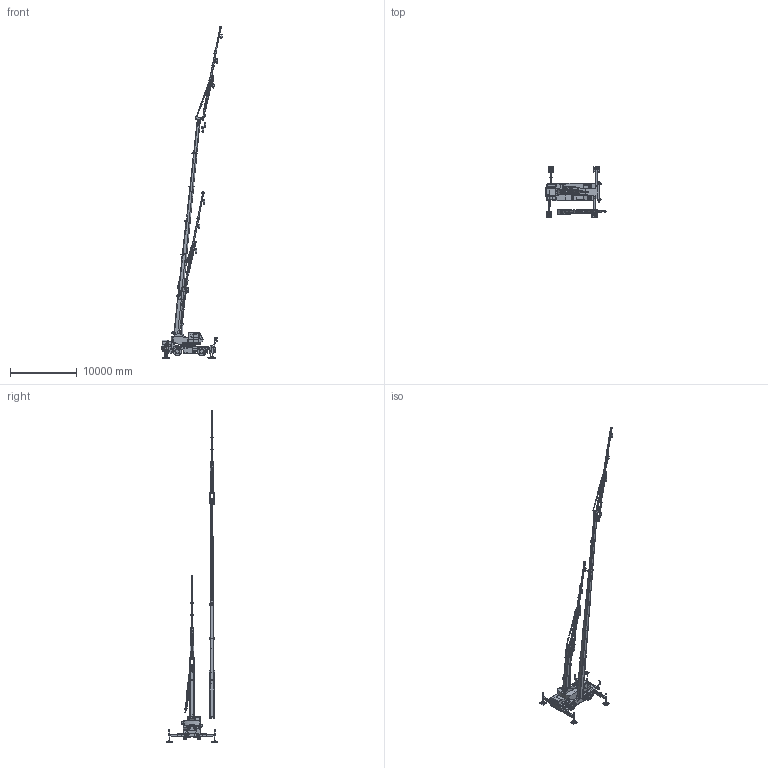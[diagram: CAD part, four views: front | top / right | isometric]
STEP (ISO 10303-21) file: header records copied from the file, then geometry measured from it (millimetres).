
FILE_DESCRIPTION(('CATIA V5 STEP Exchange','CAx-IF Rec.Pracs.--- Model Styling and Organization---1.4--- 2014-01-23'),'2;1');
FILE_NAME('\\Iba001\cad\CR\HP用CADデータ\06A\STP\MR-350Rf2 3D.stp','2022-01-14T06:41:44+00:00',('none'),('none'),'CATIA Version 5-6 Release 2017 SP5 HF78','CATIA V5 STEP AP214','none');
FILE_SCHEMA(('AUTOMOTIVE_DESIGN { 1 0 10303 214 1 1 1 1 }'));
Products named in the file (46): MR-350Rf2 3D; MR-350Rf2 UPPER; MR-350Rf2 UPPER STRUCTURE; MR-350Rf2 TABLE; MR-350Rf2 CAB; MR-350Rf2 MACHINE ROOM; MR-350Rf2 DERRICK CYLINDER-1; MR-350Rf2 DERRICK CYLINDER-2; MR-350Rf2 BOOM JIB Min; MR-350Rf2 BOOM min; MR-350Rf2 BOOM1; MR-350Rf2 BOOM2; MR-350Rf2 BOOM3; MR-350Rf2 BOOM4; MR-350Rf2 BOOM5; MR-350Rf2 BOOM6; MR-350Rf2 JIB Stowed; MR-350Rf2 JIB min; MR-350Rf2 JIB1; MR-350Rf2 JIB2; MR-350Rf2 JIB3; MR-350Rf2 JIB SLIDE BRACKET ASSY; MR-350Rf2 JIB SLIDE BRACKET; MR-350Rf2 TENSION ROD Stowed LR; MR-350Rf2 JIB; MR-350Rf2 JIB 7deg 6.5M; MR-350Rf2 TENSION ROD ASSY LR; MR-350Rf2 JIB 5deg 10.25M; MR-350Rf2 JIB mid; MR-350Rf2 JIB 5deg 14M; MR-350Rf2 JIB max; MR-350Rf2 HOOK 22t; MR-350Rf2 HOOK 4.5t; MR-350Rf2 BOOM JIB Max; MR-350Rf2 BOOM max; MR-350Rf2 CARRIER; MR-350Rf CHASSIS; MR-350Rf2 OUTRIGGER; MR-350Rf2 BEAM F-L; MR-350Rf2 BEAM OUTER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
Assembly tree (84 placements, depth 7):
  MR-350Rf2 3D
    MR-350Rf2 UPPER
      MR-350Rf2 UPPER STRUCTURE
        MR-350Rf2 TABLE
        MR-350Rf2 CAB
        MR-350Rf2 MACHINE ROOM
        MR-350Rf2 DERRICK CYLINDER-1
        MR-350Rf2 DERRICK CYLINDER-2
      MR-350Rf2 BOOM JIB Min
        MR-350Rf2 BOOM min
          MR-350Rf2 BOOM1
          MR-350Rf2 BOOM2
          MR-350Rf2 BOOM3
          MR-350Rf2 BOOM4
          MR-350Rf2 BOOM5
          MR-350Rf2 BOOM6
        MR-350Rf2 JIB Stowed
          MR-350Rf2 JIB min
            MR-350Rf2 JIB1
            MR-350Rf2 JIB2
            MR-350Rf2 JIB3
          MR-350Rf2 JIB SLIDE BRACKET ASSY
            MR-350Rf2 JIB SLIDE BRACKET
          MR-350Rf2 TENSION ROD Stowed LR
        MR-350Rf2 JIB
          MR-350Rf2 JIB 7deg 6.5M
            MR-350Rf2 JIB min
              MR-350Rf2 JIB1
              MR-350Rf2 JIB2
              MR-350Rf2 JIB3
            MR-350Rf2 TENSION ROD ASSY LR
            MR-350Rf2 JIB SLIDE BRACKET ASSY
              MR-350Rf2 JIB SLIDE BRACKET
          MR-350Rf2 JIB 5deg 10.25M
            MR-350Rf2 JIB mid
              MR-350Rf2 JIB1
              MR-350Rf2 JIB2
              MR-350Rf2 JIB3
            MR-350Rf2 JIB SLIDE BRACKET ASSY
              MR-350Rf2 JIB SLIDE BRACKET
            MR-350Rf2 TENSION ROD ASSY LR
          MR-350Rf2 JIB 5deg 14M
            MR-350Rf2 JIB max
              MR-350Rf2 JIB1
              MR-350Rf2 JIB2
              MR-350Rf2 JIB3
            MR-350Rf2 TENSION ROD ASSY LR
            MR-350Rf2 JIB SLIDE BRACKET ASSY
              MR-350Rf2 JIB SLIDE BRACKET
        MR-350Rf2 HOOK 22t
        MR-350Rf2 HOOK 4.5t  x4
      MR-350Rf2 BOOM JIB Max
        MR-350Rf2 BOOM max
          MR-350Rf2 BOOM1
          MR-350Rf2 BOOM2
          MR-350Rf2 BOOM3
          MR-350Rf2 BOOM4
          MR-350Rf2 BOOM5
          MR-350Rf2 BOOM6
        MR-350Rf2 JIB
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Bounding box: 9030.63 x 7600 x 49876.14 mm (x, y, z)
Volume: 51199593383.4 mm3; surface area: 555256554.2 mm2
Topology: 122 solids, 126 shells, 9093 faces, 24338 edges, 15836 vertices
Faces by surface type: plane 5496, cylinder 2394, torus 543, extrusion 328, bspline 246, cone 64, sphere 22
Entity records: 151511 total; most frequent: CARTESIAN_POINT 51081, ORIENTED_EDGE 22912, DIRECTION 16008, EDGE_CURVE 11456, VECTOR 7610, VERTEX_POINT 7435, LINE 7333, AXIS2_PLACEMENT_3D 5458
